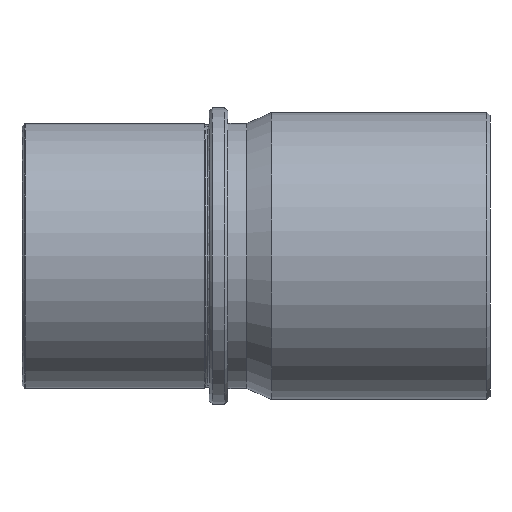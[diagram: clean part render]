
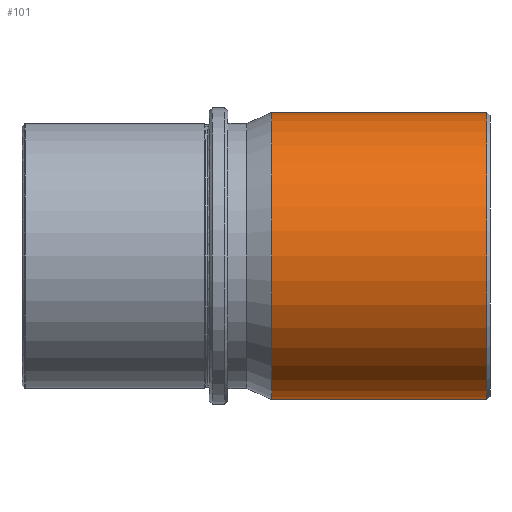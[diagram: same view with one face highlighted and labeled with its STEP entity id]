
A CAD part, left-side view. The second image highlights one B-rep face of the part: STEP entity #101.
In plain terms, the highlighted face is a revolution surface.
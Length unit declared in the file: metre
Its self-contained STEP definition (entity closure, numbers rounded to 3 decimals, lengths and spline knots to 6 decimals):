
#101 = ADVANCED_FACE( '', ( #171 ), #172, .F. );
#171 = FACE_OUTER_BOUND( '', #436, .T. );
#172 = SURFACE_OF_REVOLUTION( '', #437, #438 );
#436 = EDGE_LOOP( '', ( #743, #744, #745, #746 ) );
#437 = B_SPLINE_CURVE_WITH_KNOTS( '', 1, ( #747, #748 ), .UNSPECIFIED., .F., .F., ( 2, 2 ), ( -10000., 10000. ), .UNSPECIFIED. );
#438 = AXIS1_PLACEMENT( '', #749, #750 );
#743 = ORIENTED_EDGE( '', *, *, #890, .F. );
#744 = ORIENTED_EDGE( '', *, *, #895, .F. );
#745 = ORIENTED_EDGE( '', *, *, #896, .T. );
#746 = ORIENTED_EDGE( '', *, *, #893, .F. );
#747 = CARTESIAN_POINT( '', ( 0., 10000.07, -0.046 ) );
#748 = CARTESIAN_POINT( '', ( 0., -9999.93, -0.046 ) );
#749 = CARTESIAN_POINT( '', ( 0., 0.078, 0. ) );
#750 = DIRECTION( '', ( 0., 1., 0. ) );
#890 = EDGE_CURVE( '', #997, #995, #1000, .F. );
#893 = EDGE_CURVE( '', #995, #1005, #1006, .T. );
#895 = EDGE_CURVE( '', #1007, #997, #1009, .F. );
#896 = EDGE_CURVE( '', #1007, #1005, #1010, .F. );
#995 = VERTEX_POINT( '', #1171 );
#997 = VERTEX_POINT( '', #1174 );
#1000 = CIRCLE( '', #1178, 0.046 );
#1005 = VERTEX_POINT( '', #1183 );
#1006 = LINE( '', #1184, #1185 );
#1007 = VERTEX_POINT( '', #1186 );
#1009 = LINE( '', #1188, #1189 );
#1010 = CIRCLE( '', #1190, 0.046 );
#1171 = CARTESIAN_POINT( '', ( 0., 0.07, 0.046 ) );
#1174 = CARTESIAN_POINT( '', ( 0., 0.07, -0.046 ) );
#1178 = AXIS2_PLACEMENT_3D( '', #1382, #1383, #1384 );
#1183 = CARTESIAN_POINT( '', ( 0., 0.001, 0.046 ) );
#1184 = CARTESIAN_POINT( '', ( 0., 0.07, 0.046 ) );
#1185 = VECTOR( '', #1391, 1. );
#1186 = CARTESIAN_POINT( '', ( 0., 0.001, -0.046 ) );
#1188 = CARTESIAN_POINT( '', ( 0., 0.07, -0.046 ) );
#1189 = VECTOR( '', #1395, 1. );
#1190 = AXIS2_PLACEMENT_3D( '', #1396, #1397, #1398 );
#1382 = CARTESIAN_POINT( '', ( 0., 0.07, 0. ) );
#1383 = DIRECTION( '', ( 0., -1., 0. ) );
#1384 = DIRECTION( '', ( 0., 0., -1. ) );
#1391 = DIRECTION( '', ( 0., -1., 0. ) );
#1395 = DIRECTION( '', ( 0., -1., 0. ) );
#1396 = CARTESIAN_POINT( '', ( 0., 0.001, 0. ) );
#1397 = DIRECTION( '', ( 0., -1., 0. ) );
#1398 = DIRECTION( '', ( 0., 0., -1. ) );
